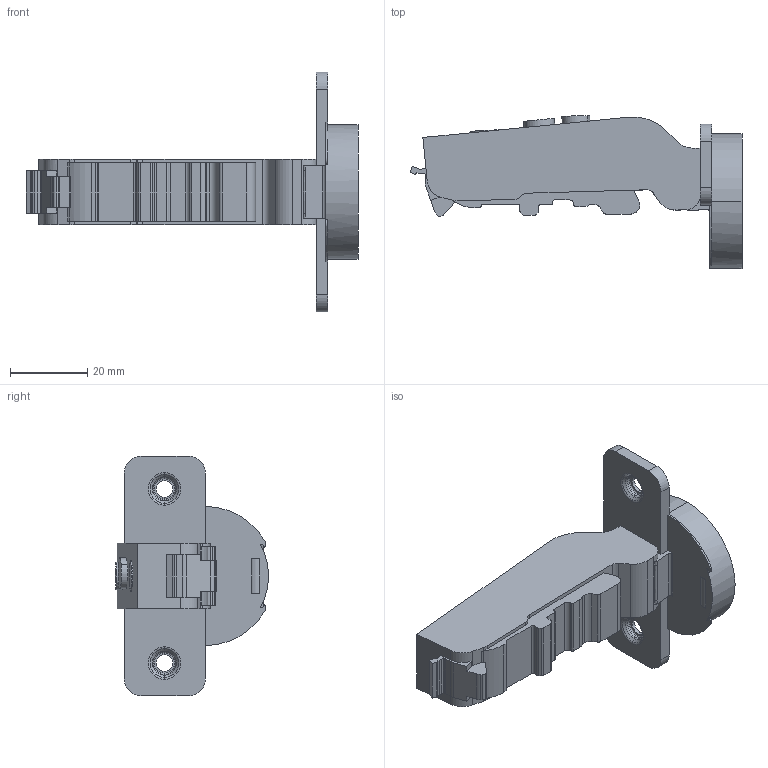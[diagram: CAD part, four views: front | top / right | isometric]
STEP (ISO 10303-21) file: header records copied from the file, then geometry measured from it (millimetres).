
FILE_DESCRIPTION (( 'STEP AP203' ), '1' );
FILE_NAME ('C81A8Q5FAB -DTC 3D close.STEP', '2024-11-29T08:19:34', ( '微软用户' ), ( '微软中国' ), 'SwSTEP 2.0', 'SolidWorks 2021', '' );
FILE_SCHEMA (( 'CONFIG_CONTROL_DESIGN' ));
Length unit declared in the file: millimetre
Products named in the file (1): C81A8Q5FAB -DTC 3D close
Bounding box: 85.79 x 39.55 x 62 mm (x, y, z)
Volume: 35491.4 mm3; surface area: 10701.4 mm2
Topology: 1 solids, 1 shells, 172 faces, 479 edges, 314 vertices
Faces by surface type: plane 76, cylinder 75, torus 16, cone 4, bspline 1
Entity records: 5670 total; most frequent: CARTESIAN_POINT 1015, DIRECTION 1000, ORIENTED_EDGE 958, EDGE_CURVE 479, AXIS2_PLACEMENT_3D 360, VERTEX_POINT 314, VECTOR 280, LINE 280
